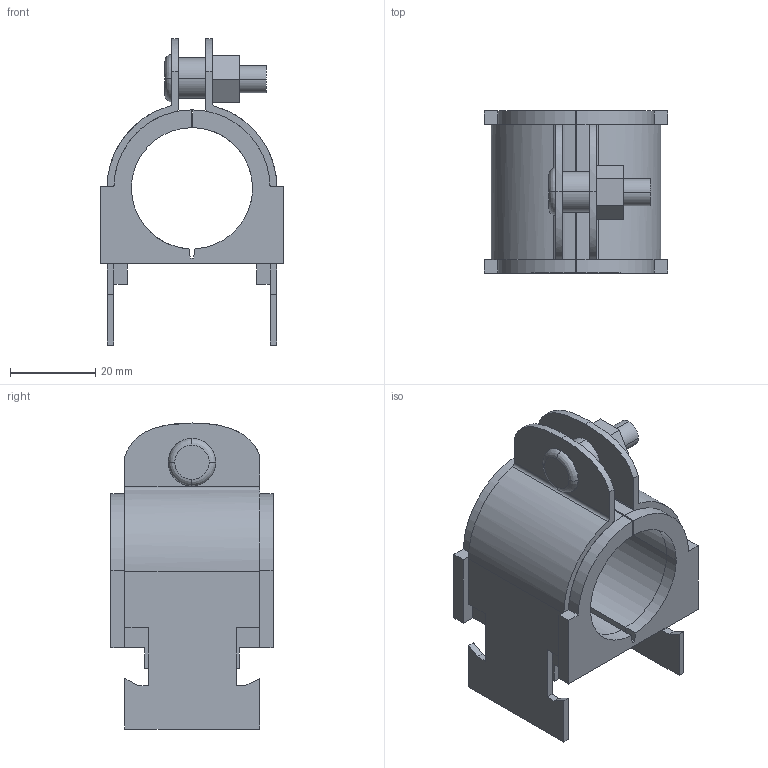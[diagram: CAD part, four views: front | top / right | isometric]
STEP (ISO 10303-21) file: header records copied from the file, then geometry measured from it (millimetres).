
FILE_DESCRIPTION(('TurboCAD Mac Pro'),'Build 980');
FILE_NAME('018T022.stp',' ',(''),(''),'ACIS Interop','IMSI','TurboCAD Mac Pro BY IMSI, INCORPORATED');
FILE_SCHEMA(('automotive_design'));
Length unit declared in the file: inch
Products named in the file (3): 1; 2; 3
Bounding box: 43.05 x 38.1 x 71.88 mm (x, y, z)
Volume: 8803.1 mm3; surface area: 21478 mm2
Topology: 2 solids, 3 shells, 153 faces, 405 edges, 260 vertices
Faces by surface type: plane 107, bspline 46
Entity records: 7261 total; most frequent: CARTESIAN_POINT 1784, ORIENTED_EDGE 806, DIRECTION 517, EDGE_CURVE 403, STYLED_ITEM 311, PRESENTATION_STYLE_ASSIGNMENT 311, COLOUR_RGB 311, LINE 291
